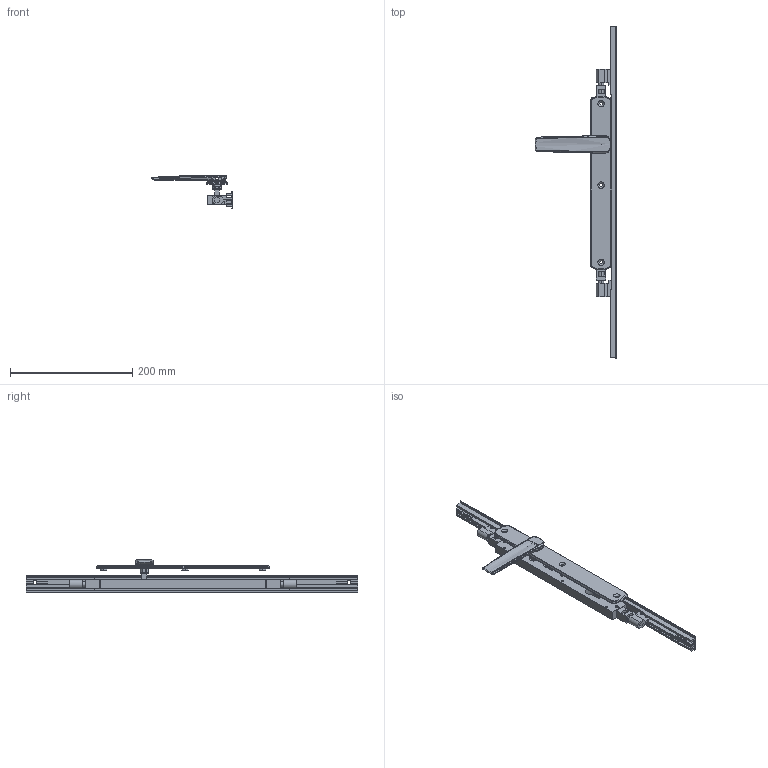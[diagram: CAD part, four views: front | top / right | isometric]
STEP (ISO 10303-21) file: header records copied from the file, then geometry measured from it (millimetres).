
FILE_DESCRIPTION (( 'STEP AP214' ), '1' );
FILE_NAME ('TPL-W-EU-611-U 06Nov2024.STEP', '2024-11-27T01:41:20', ( '' ), ( '' ), 'SwSTEP 2.0', 'SolidWorks 2023', '' );
FILE_SCHEMA (( 'AUTOMOTIVE_DESIGN' ));
Length unit declared in the file: millimetre
Products named in the file (18): Copy of LKC-585 Rotator body zinc^Copy of TPGen2 handle non-keyed long zinc - simplified_TPL-W-EU-111 04Nov2024; Copy of LKC-505 Swing handle zinc - simplified^Copy of TPGen2 handle non-keyed long zinc - simplified_TPL-W-EU-111 04Nov2024; Copy of LKC-531 Lock twinpoint transmission rod wood system^TPL-W-EU-111 04Nov2024_Standard Range (588.7mm); Copy of TPLGen2 lock body keyed assembly^TPL-W-EU-111 04Nov2024_Bolts retracted; Copy of Copy of LKC-531 Lock twinpoint transmission rod wood system^TPL-W-EU-111 04Nov2024_Standard Range 2891.7mm; Copy of LKC-584 Pivot body zinc - simplified^Copy of TPGen2 handle non-keyed long zinc - simplified_TPL-W-EU-111 04Nov2024; Copy of TPLGen2 push rod - simplified^Copy of TPLGen2 lock body keyed assembly_TPL-W-EU-111 04Nov2024_Female thread M10; Copy of COV-112-A Cover A suit TPLGen2 standard range^TPL-W-EU-111 04Nov2024_1335mm; Copy of COV-112-C Cover C TPLGen2 Lock body^TPL-W-EU-111 04Nov2024; Copy of LKC-586 Spindle square 8mm with M4 hole^Copy of TPGen2 handle non-keyed long zinc - simplified_TPL-W-EU-111 04Nov2024_25mm; Copy of TPLGen2 lock body keyed^Copy of TPLGen2 lock body keyed assembly_TPL-W-EU-111 04Nov2024; TPL-W-EU-611-U 06Nov2024; Copy of TPGen2 handle non-keyed long zinc - simplified^TPL-W-EU-111 04Nov2024_Left; Copy of Adapter CnE - simplfied^TPL-W-EU-111 04Nov2024_26mm backset; Copy of Adapter DnF - simplfied^TPL-W-EU-111 04Nov2024_26mm backset; Copy of COV-112-B Cover B suit TPLGen2 standard range^TPL-W-EU-111 04Nov2024_2870mm; Copy of LKC-583 Escutcheon plate unkeyed 285mm long zinc - simplified^Copy of TPGen2 handle non-keyed long zinc - simplified_TPL-W-EU-111 04Nov2024; Bolt.step
Assembly tree (15 placements, depth 3):
  Copy of COV-112-A Cover A suit TPLGen2 standard range^TPL-W-EU-111 04Nov2024_1335mm
  TPL-W-EU-611-U 06Nov2024
    Copy of TPLGen2 lock body keyed assembly^TPL-W-EU-111 04Nov2024_Bolts retracted
      Copy of TPLGen2 lock body keyed^Copy of TPLGen2 lock body keyed assembly_TPL-W-EU-111 04Nov2024
      Copy of TPLGen2 push rod - simplified^Copy of TPLGen2 lock body keyed assembly_TPL-W-EU-111 04Nov2024_Female thread M10  x2
    Copy of TPGen2 handle non-keyed long zinc - simplified^TPL-W-EU-111 04Nov2024_Left
      Copy of LKC-583 Escutcheon plate unkeyed 285mm long zinc - simplified^Copy of TPGen2 handle non-keyed long zinc - simplified_TPL-W-EU-111 04Nov2024
      Copy of LKC-505 Swing handle zinc - simplified^Copy of TPGen2 handle non-keyed long zinc - simplified_TPL-W-EU-111 04Nov2024
      Copy of LKC-585 Rotator body zinc^Copy of TPGen2 handle non-keyed long zinc - simplified_TPL-W-EU-111 04Nov2024
      Copy of LKC-586 Spindle square 8mm with M4 hole^Copy of TPGen2 handle non-keyed long zinc - simplified_TPL-W-EU-111 04Nov2024_25mm
      Copy of LKC-584 Pivot body zinc - simplified^Copy of TPGen2 handle non-keyed long zinc - simplified_TPL-W-EU-111 04Nov2024
    Copy of COV-112-C Cover C TPLGen2 Lock body^TPL-W-EU-111 04Nov2024
    Copy of Copy of LKC-531 Lock twinpoint transmission rod wood system^TPL-W-EU-111 04Nov2024_Standard Range 2891.7mm
    Copy of LKC-531 Lock twinpoint transmission rod wood system^TPL-W-EU-111 04Nov2024_Standard Range (588.7mm)
    Copy of Adapter CnE - simplfied^TPL-W-EU-111 04Nov2024_26mm backset
    Copy of Adapter DnF - simplfied^TPL-W-EU-111 04Nov2024_26mm backset
  Copy of COV-112-B Cover B suit TPLGen2 standard range^TPL-W-EU-111 04Nov2024_2870mm
  Bolt.step
Bounding box: 134.12 x 544 x 53.86 mm (x, y, z)
Volume: 271118.9 mm3; surface area: 136116.5 mm2
Topology: 13 solids, 13 shells, 889 faces, 2193 edges, 1364 vertices
Faces by surface type: plane 310, bspline 241, cylinder 208, cone 70, torus 52, sphere 8
Entity records: 31874 total; most frequent: CARTESIAN_POINT 12777, ORIENTED_EDGE 4194, DIRECTION 3431, EDGE_CURVE 2097, VERTEX_POINT 1304, AXIS2_PLACEMENT_3D 1260, EDGE_LOOP 949, LINE 911
